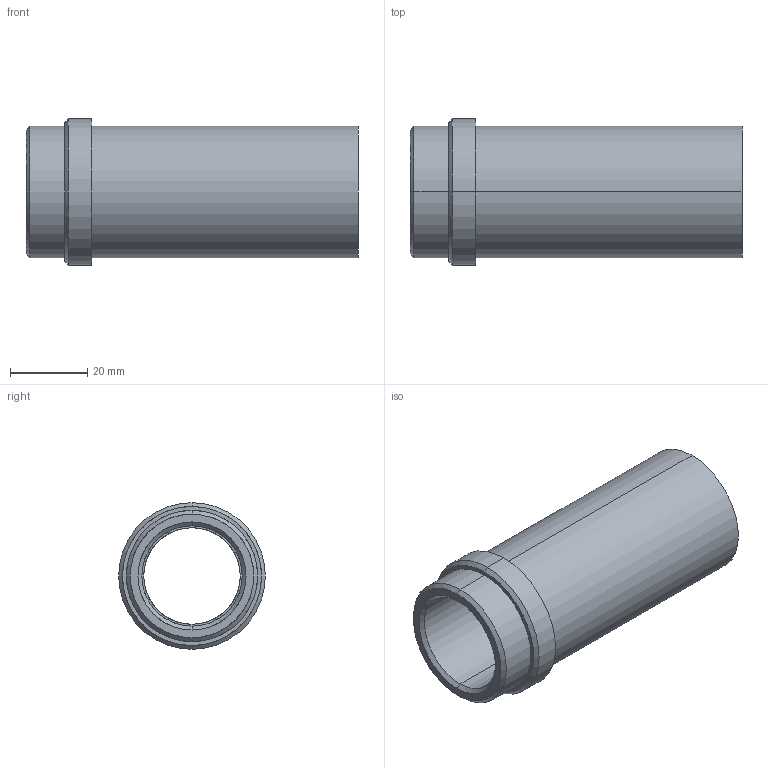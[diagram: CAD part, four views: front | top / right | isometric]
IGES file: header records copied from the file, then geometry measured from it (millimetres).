
Start section: START RECORD GO HERE.
Global section: file name: 358-25x86.igs; native system: DASSAULT SYSTEMES CATIA V5 R20 - www.3ds.com; preprocessor: CATIA Version 5 Release 20 ; author: Utente; organization: NB04-ASUS; date: 20210409.152035; units: millimetre
Bounding box: 86 x 38 x 38 mm (x, y, z)
Surface area: 17180.7 mm2 (no closed solid volume)
Topology: 0 solids, 0 shells, 23 faces, 148 edges, 148 vertices
Faces by surface type: revolution 18, plane 5
